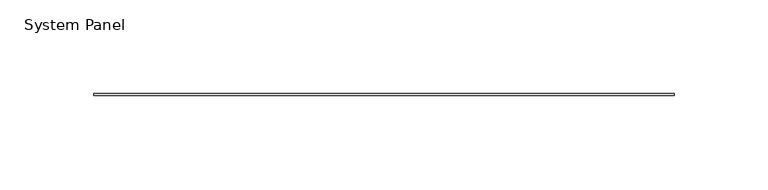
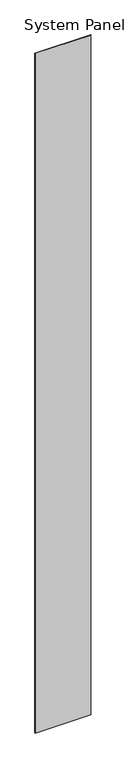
"""IFC4 building model written with IfcOpenShell, lengths in millimetres: plate geometry, System Panel : Stratco_Hiland_Tray."""

from ifc_helpers import new_model, si_unit, origin, origin_with_axes, place, context, project, spatial, polyline, outline, extrude, source, transform, mapped, element, save


def system_panel_9c6cef96(model_context):
    return source(origin(), model_context, "Body", "SweptSolid", [
        extrude(outline(polyline([(155.0000002, 2.5), (-155.0000002, 2.5), (-155.0000002, 3.5), (155.0000002, 3.5), (155.0000002, 2.5)])), origin_with_axes(), (0.0, 0.0, 1.0), 4000.0),
    ])


if __name__ == "__main__":
    model = new_model("IFC4")
    model_context = context("Model", 3, world=origin())
    ifc_project = project(units=[si_unit("LENGTHUNIT", "METRE", prefix="MILLI")], contexts=[model_context])
    site = spatial("IfcSite", under=ifc_project)
    building = spatial("IfcBuilding", under=site)
    placement = place(None, origin())
    system_panel_shape = system_panel_9c6cef96(model_context)
    element("IfcPlate", 1, ObjectType="System Panel : Stratco_Hiland_Tray", at=placement, inside=building, context=model_context, shape_type="MappedRepresentation", body=[
        mapped(system_panel_shape, transform((0.0, 0.0, 0.0), x_axis=(1.0, 0.0, 0.0), y_axis=(0.0, 1.0, 0.0), z_axis=(0.0, 0.0, 1.0))),
    ])
    save(model, "model.ifc")
